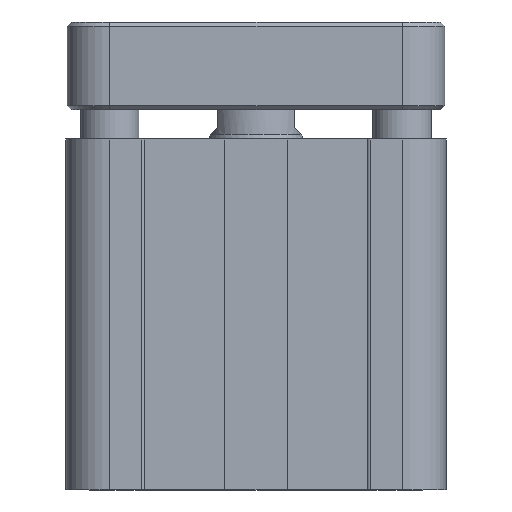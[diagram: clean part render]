
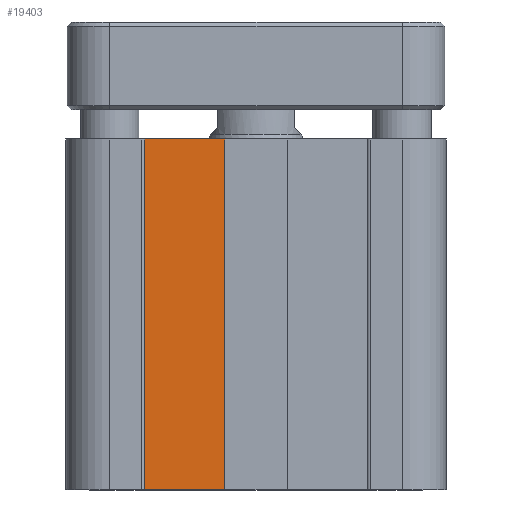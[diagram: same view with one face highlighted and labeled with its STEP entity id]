
A CAD part, front view. The second image highlights one B-rep face of the part: STEP entity #19403.
In plain terms, the highlighted planar face has unit normal (0, -1, 0).
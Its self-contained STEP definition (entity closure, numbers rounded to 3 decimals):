
#713 = ORIENTED_EDGE ( 'NONE', *, *, #9978, .F. ) ;
#2263 = AXIS2_PLACEMENT_3D ( 'NONE', #3161, #11315, #11183 ) ;
#3161 = CARTESIAN_POINT ( 'NONE',  ( -19., -31.8, 60. ) ) ;
#3847 = ORIENTED_EDGE ( 'NONE', *, *, #18250, .T. ) ;
#3976 = LINE ( 'NONE', #11025, #5242 ) ;
#4143 = VECTOR ( 'NONE', #20714, 1000. ) ;
#4504 = CARTESIAN_POINT ( 'NONE',  ( -19., -31.8, 0. ) ) ;
#5242 = VECTOR ( 'NONE', #12725, 1000. ) ;
#5410 = LINE ( 'NONE', #4504, #14058 ) ;
#7767 = VERTEX_POINT ( 'NONE', #16971 ) ;
#7897 = VERTEX_POINT ( 'NONE', #20212 ) ;
#8412 = LINE ( 'NONE', #9345, #18078 ) ;
#8570 = ORIENTED_EDGE ( 'NONE', *, *, #14271, .T. ) ;
#9127 = CARTESIAN_POINT ( 'NONE',  ( -19., -31.8, 60. ) ) ;
#9345 = CARTESIAN_POINT ( 'NONE',  ( -5.3, -31.8, 60. ) ) ;
#9978 = EDGE_CURVE ( 'NONE', #18252, #7767, #19097, .T. ) ;
#11025 = CARTESIAN_POINT ( 'NONE',  ( -19., -31.8, 60. ) ) ;
#11183 = DIRECTION ( 'NONE',  ( -1., 0., 0. ) ) ;
#11315 = DIRECTION ( 'NONE',  ( 0., 1., 0. ) ) ;
#11322 = DIRECTION ( 'NONE',  ( 1., 0., 0. ) ) ;
#12725 = DIRECTION ( 'NONE',  ( 0., 0., -1. ) ) ;
#13920 = DIRECTION ( 'NONE',  ( 0., 0., -1. ) ) ;
#14058 = VECTOR ( 'NONE', #11322, 1000. ) ;
#14271 = EDGE_CURVE ( 'NONE', #7897, #20801, #5410, .T. ) ;
#14443 = PLANE ( 'NONE',  #2263 ) ;
#15425 = CARTESIAN_POINT ( 'NONE',  ( -5.3, -31.8, 0. ) ) ;
#15980 = EDGE_LOOP ( 'NONE', ( #8570, #16438, #713, #3847 ) ) ;
#16438 = ORIENTED_EDGE ( 'NONE', *, *, #19968, .F. ) ;
#16847 = FACE_OUTER_BOUND ( 'NONE', #15980, .T. ) ;
#16971 = CARTESIAN_POINT ( 'NONE',  ( -5.3, -31.8, 60. ) ) ;
#18078 = VECTOR ( 'NONE', #13920, 1000. ) ;
#18250 = EDGE_CURVE ( 'NONE', #18252, #7897, #3976, .T. ) ;
#18252 = VERTEX_POINT ( 'NONE', #19275 ) ;
#19097 = LINE ( 'NONE', #9127, #4143 ) ;
#19275 = CARTESIAN_POINT ( 'NONE',  ( -19., -31.8, 60. ) ) ;
#19403 = ADVANCED_FACE ( 'NONE', ( #16847 ), #14443, .F. ) ;
#19968 = EDGE_CURVE ( 'NONE', #7767, #20801, #8412, .T. ) ;
#20212 = CARTESIAN_POINT ( 'NONE',  ( -19., -31.8, 0. ) ) ;
#20714 = DIRECTION ( 'NONE',  ( 1., 0., 0. ) ) ;
#20801 = VERTEX_POINT ( 'NONE', #15425 ) ;
